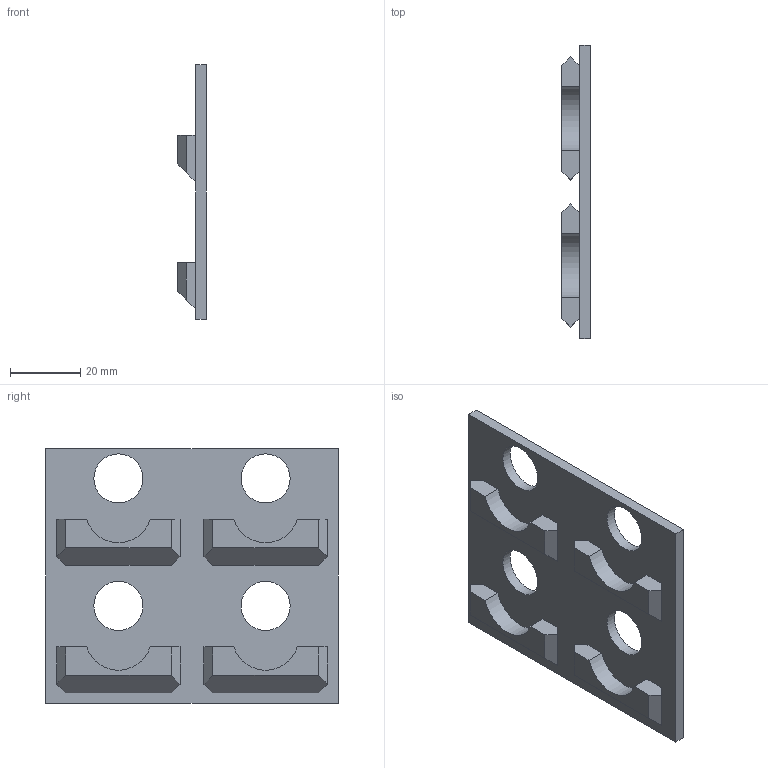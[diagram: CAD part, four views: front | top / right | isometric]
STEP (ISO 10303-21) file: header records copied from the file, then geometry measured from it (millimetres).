
FILE_DESCRIPTION(/* description */ ('','CAx-IF Rec.Pracs.---Representation and Presentation of Product Manufacturing Information (PMI)---4.0---2014-10-13'),/* implementation_level */ '2;1');
FILE_NAME(/* name */ 'GOEWS GRID Alignment 2x2.step',/* time_stamp */ '2025-01-03T10:42:17-05:00',/* author */ (''),/* organization */ (''),/* preprocessor_version */ 'ST-DEVELOPER v20',/* originating_system */ 'Autodesk Translation Framework v13.20.0.188',/* authorisation */ '');
FILE_SCHEMA (('AP242_MANAGED_MODEL_BASED_3D_ENGINEERING_MIM_LF { 1 0 10303 442 1 1 4 }'));
Length unit declared in the file: millimetre
Products named in the file (1): GOEWS GRID Alignment 2x2
Bounding box: 8.15 x 83.6 x 72.75 mm (x, y, z)
Volume: 21779.2 mm3; surface area: 14149.2 mm2
Topology: 1 solids, 1 shells, 58 faces, 148 edges, 96 vertices
Faces by surface type: plane 50, cylinder 8
Full cylindrical faces by diameter (mm): 14 x4
Entity records: 1780 total; most frequent: CARTESIAN_POINT 303, ORIENTED_EDGE 296, DIRECTION 282, EDGE_CURVE 148, LINE 132, VECTOR 132, VERTEX_POINT 96, AXIS2_PLACEMENT_3D 75
